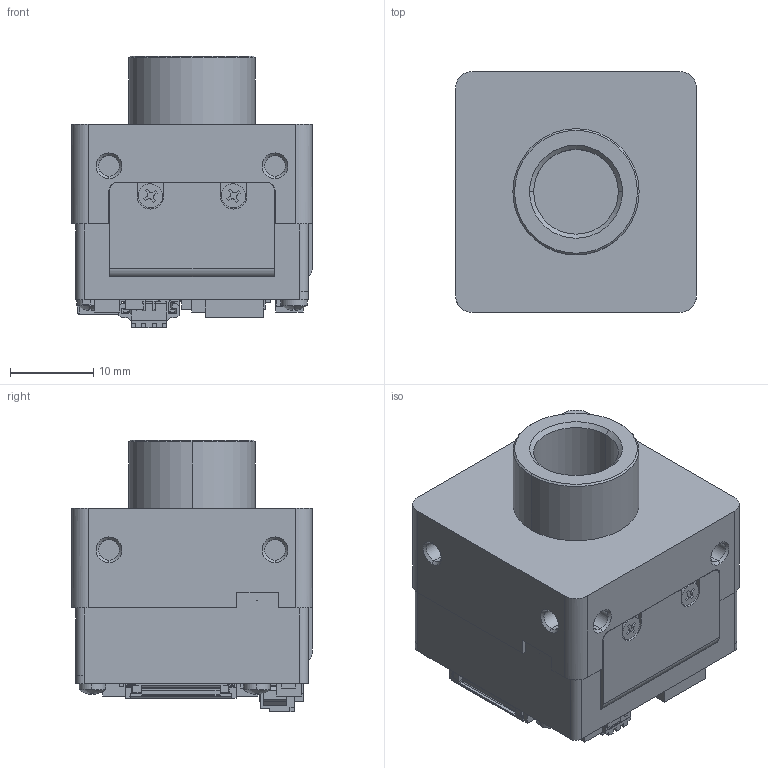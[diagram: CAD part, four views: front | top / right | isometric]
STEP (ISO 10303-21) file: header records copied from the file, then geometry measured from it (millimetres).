
FILE_DESCRIPTION (( 'STEP AP203' ), '1' );
FILE_NAME ('繩縐S諳.STEP', '2022-09-06T10:39:06', ( '' ), ( '' ), 'SwSTEP 2.0', 'SolidWorks 2016', '' );
FILE_SCHEMA (( 'CONFIG_CONTROL_DESIGN' ));
Length unit declared in the file: millimetre
Products named in the file (1): 繩縐S諳
Bounding box: 29 x 29 x 32.71 mm (x, y, z)
Volume: 17852 mm3; surface area: 5990.2 mm2
Topology: 1 solids, 1 shells, 1283 faces, 3669 edges, 2417 vertices
Faces by surface type: plane 991, cylinder 262, cone 20, bspline 8, sphere 2
Entity records: 41819 total; most frequent: CARTESIAN_POINT 7903, ORIENTED_EDGE 7338, DIRECTION 6640, EDGE_CURVE 3669, VECTOR 3028, LINE 3028, VERTEX_POINT 2417, AXIS2_PLACEMENT_3D 1806
